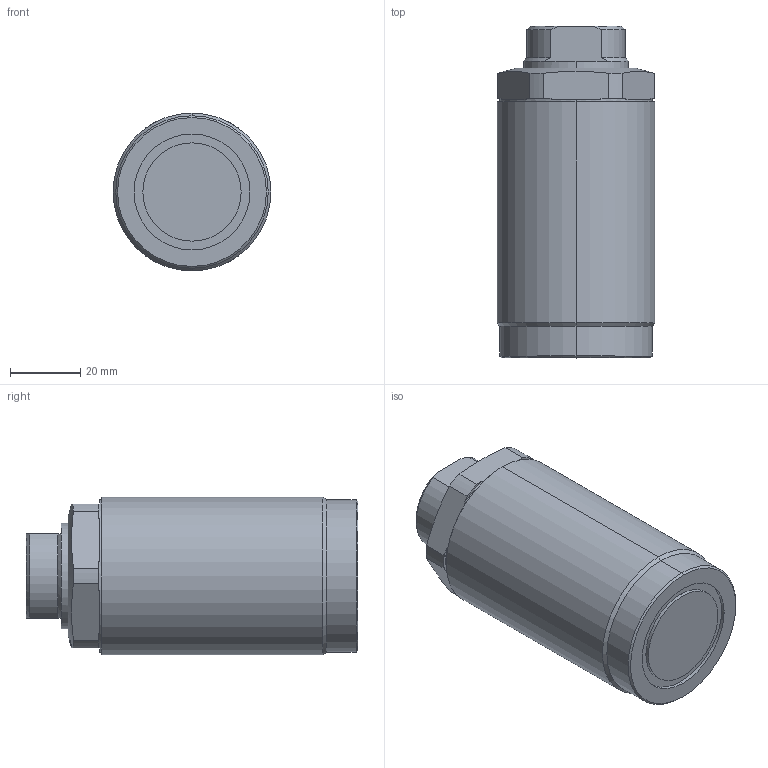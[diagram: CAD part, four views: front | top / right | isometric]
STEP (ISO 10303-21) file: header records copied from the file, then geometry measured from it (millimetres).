
FILE_DESCRIPTION (( 'STEP AP203' ), '1' );
FILE_NAME ('T03C-M455-L threaded pusher.STEP', '2022-07-09T17:43:20', ( '' ), ( '' ), 'SwSTEP 2.0', 'SolidWorks 2017', '' );
FILE_SCHEMA (( 'CONFIG_CONTROL_DESIGN' ));
Length unit declared in the file: millimetre
Products named in the file (3): T03C-M455-L part-1; T03C-M455-L part-2; T03C-M455-L threaded pusher
Assembly tree (2 placements, depth 2):
  T03C-M455-L threaded pusher
    T03C-M455-L part-1
    T03C-M455-L part-2
Bounding box: 45 x 94.5 x 45 mm (x, y, z)
Volume: 157197.7 mm3; surface area: 20602.3 mm2
Topology: 2 solids, 2 shells, 255 faces, 675 edges, 445 vertices
Faces by surface type: plane 141, bspline 78, cylinder 22, cone 14
Entity records: 12252 total; most frequent: CARTESIAN_POINT 6272, ORIENTED_EDGE 1346, DIRECTION 864, EDGE_CURVE 673, VERTEX_POINT 445, LINE 368, VECTOR 368, EDGE_LOOP 278
